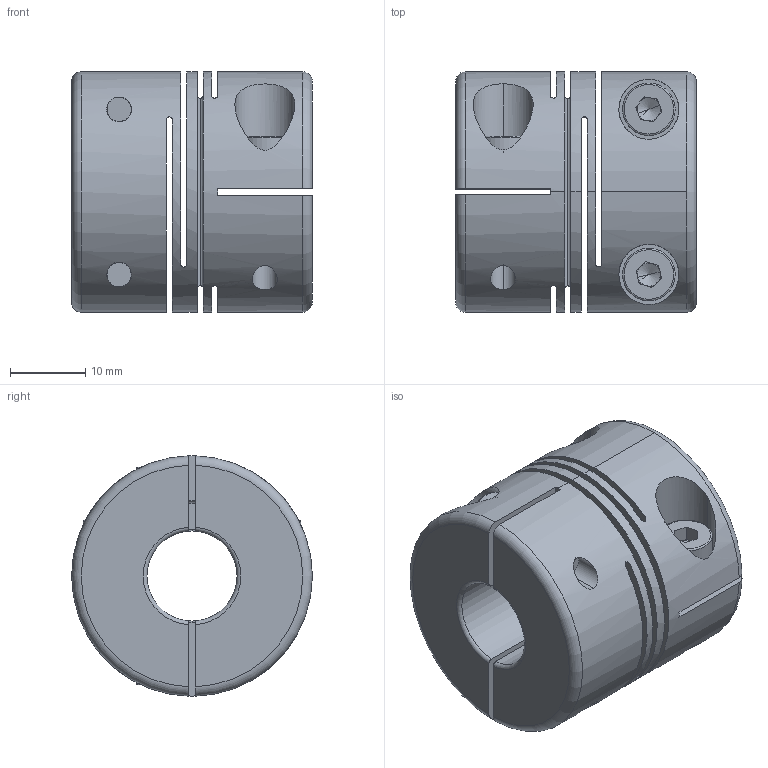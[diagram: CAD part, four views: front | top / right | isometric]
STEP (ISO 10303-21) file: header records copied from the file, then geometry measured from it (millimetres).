
FILE_DESCRIPTION (( 'STEP AP203' ), '1' );
FILE_NAME ('FACMS32-12x12.STEP', '2014-01-27T06:14:36', ( '123' ), ( '' ), 'SwSTEP 2.0', 'SolidWorks 2013', '' );
FILE_SCHEMA (( 'CONFIG_CONTROL_DESIGN' ));
Length unit declared in the file: millimetre
Products named in the file (1): FACMS32-12x12
Bounding box: 32 x 32 x 32 mm (x, y, z)
Surface area: 12128.5 mm2 (no closed solid volume)
Topology: 0 solids, 9 shells, 134 faces, 393 edges, 257 vertices
Faces by surface type: plane 60, cylinder 44, torus 18, cone 12
Entity records: 5138 total; most frequent: CARTESIAN_POINT 1517, DIRECTION 761, ORIENTED_EDGE 684, EDGE_CURVE 385, AXIS2_PLACEMENT_3D 289, VERTEX_POINT 257, LINE 183, VECTOR 183
